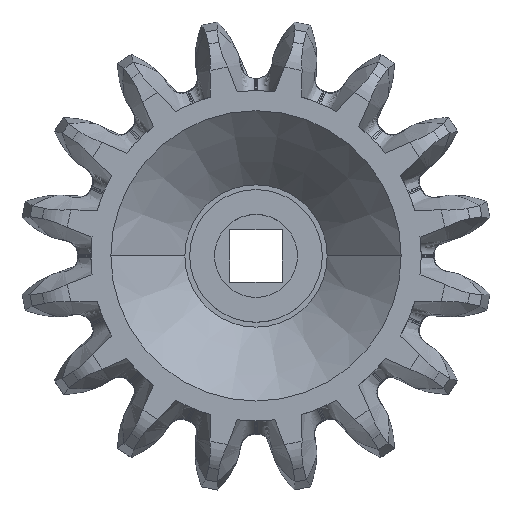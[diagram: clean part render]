
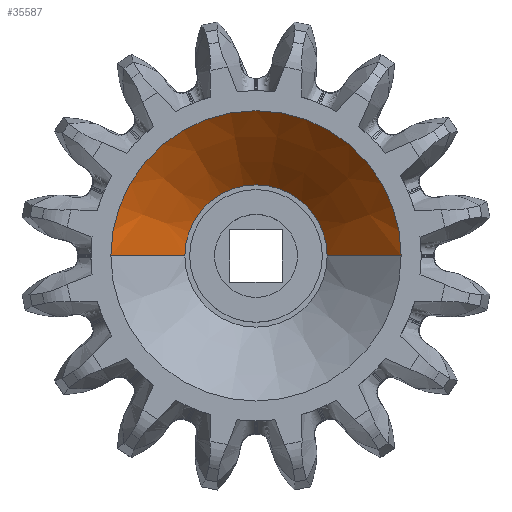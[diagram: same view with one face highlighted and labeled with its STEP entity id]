
A CAD part, top view. The second image highlights one B-rep face of the part: STEP entity #35587.
In plain terms, the highlighted conical face has half-angle 45 degrees and reference radius 8.75 mm.
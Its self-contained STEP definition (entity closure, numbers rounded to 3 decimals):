
#3213 = CARTESIAN_POINT ( 'NONE',  ( 0., 0., 5.461 ) ) ;
#3920 = VERTEX_POINT ( 'NONE', #22683 ) ;
#5059 = DIRECTION ( 'NONE',  ( 1., 0., 0. ) ) ;
#7294 = AXIS2_PLACEMENT_3D ( 'NONE', #3213, #32655, #13279 ) ;
#7602 = AXIS2_PLACEMENT_3D ( 'NONE', #24416, #11542, #30679 ) ;
#10476 = FACE_OUTER_BOUND ( 'NONE', #29385, .T. ) ;
#11274 = DIRECTION ( 'NONE',  ( 0., 0., 1. ) ) ;
#11542 = DIRECTION ( 'NONE',  ( 0., 0., 1. ) ) ;
#12705 = EDGE_CURVE ( 'NONE', #37219, #3920, #25011, .T. ) ;
#12904 = ORIENTED_EDGE ( 'NONE', *, *, #19674, .T. ) ;
#13279 = DIRECTION ( 'NONE',  ( 1., 0., 0. ) ) ;
#13523 = VECTOR ( 'NONE', #36416, 1000. ) ;
#13586 = CARTESIAN_POINT ( 'NONE',  ( 8.75, 0., 5.461 ) ) ;
#16610 = VERTEX_POINT ( 'NONE', #33983 ) ;
#17007 = LINE ( 'NONE', #13586, #36790 ) ;
#19674 = EDGE_CURVE ( 'NONE', #37219, #16610, #17007, .T. ) ;
#20035 = LINE ( 'NONE', #39856, #13523 ) ;
#20101 = ORIENTED_EDGE ( 'NONE', *, *, #40835, .T. ) ;
#20313 = CONICAL_SURFACE ( 'NONE', #7294, 8.75, 0.785 ) ;
#21570 = AXIS2_PLACEMENT_3D ( 'NONE', #33871, #11274, #5059 ) ;
#22138 = ORIENTED_EDGE ( 'NONE', *, *, #28704, .F. ) ;
#22683 = CARTESIAN_POINT ( 'NONE',  ( -4.289, 0., 1. ) ) ;
#23506 = ORIENTED_EDGE ( 'NONE', *, *, #12705, .F. ) ;
#23540 = CARTESIAN_POINT ( 'NONE',  ( -8.75, 0., 5.461 ) ) ;
#24416 = CARTESIAN_POINT ( 'NONE',  ( 0., 0., 5.461 ) ) ;
#25011 = CIRCLE ( 'NONE', #21570, 4.289 ) ;
#28704 = EDGE_CURVE ( 'NONE', #3920, #37889, #20035, .T. ) ;
#29385 = EDGE_LOOP ( 'NONE', ( #22138, #23506, #12904, #20101 ) ) ;
#29471 = CIRCLE ( 'NONE', #7602, 8.75 ) ;
#30599 = CARTESIAN_POINT ( 'NONE',  ( 4.289, 0., 1. ) ) ;
#30679 = DIRECTION ( 'NONE',  ( 1., 0., 0. ) ) ;
#32655 = DIRECTION ( 'NONE',  ( 0., 0., 1. ) ) ;
#33871 = CARTESIAN_POINT ( 'NONE',  ( 0., 0., 1. ) ) ;
#33983 = CARTESIAN_POINT ( 'NONE',  ( 8.75, 0., 5.461 ) ) ;
#35587 = ADVANCED_FACE ( 'NONE', ( #10476 ), #20313, .F. ) ;
#36416 = DIRECTION ( 'NONE',  ( -0.707, 0., 0.707 ) ) ;
#36609 = DIRECTION ( 'NONE',  ( 0.707, 0., 0.707 ) ) ;
#36790 = VECTOR ( 'NONE', #36609, 1000. ) ;
#37219 = VERTEX_POINT ( 'NONE', #30599 ) ;
#37889 = VERTEX_POINT ( 'NONE', #23540 ) ;
#39856 = CARTESIAN_POINT ( 'NONE',  ( -8.75, 0., 5.461 ) ) ;
#40835 = EDGE_CURVE ( 'NONE', #16610, #37889, #29471, .T. ) ;
